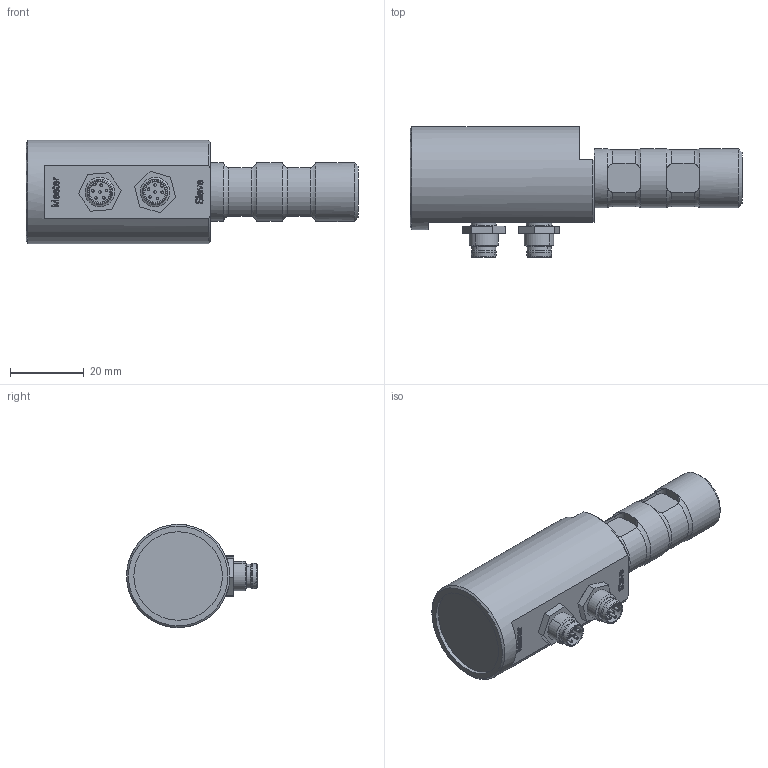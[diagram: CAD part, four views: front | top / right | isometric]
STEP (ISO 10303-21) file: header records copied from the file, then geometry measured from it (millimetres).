
FILE_DESCRIPTION(/* description */ ('Alibre Inc.'),/* implementation_level */ '2;1');
FILE_NAME(/* name */ 'export-2738DC09-7430-4302-BC5A-EB1AC9F582ED',/* time_stamp */ '2022-02-07T10:53:00+01:00',/* author */ (''),/* organization */ (''),/* preprocessor_version */ 'ST-DEVELOPER v17',/* originating_system */ 'Alibre',/* authorisation */ '');
FILE_SCHEMA (('CONFIG_CONTROL_DESIGN'));
Length unit declared in the file: millimetre
Bounding box: 90 x 35.5 x 28 mm (x, y, z)
Volume: 36603.5 mm3; surface area: 9865.7 mm2
Topology: 3 solids, 3 shells, 454 faces, 1176 edges, 778 vertices
Faces by surface type: plane 170, bspline 123, cylinder 99, torus 34, cone 28
Full cylindrical faces by diameter (mm): 0.7 x12, 7.5 x2, 16 x3, 24 x1, 28 x1
Entity records: 11890 total; most frequent: CARTESIAN_POINT 3753, ORIENTED_EDGE 1888, DIRECTION 1078, EDGE_CURVE 944, VERTEX_POINT 634, VECTOR 463, LINE 463, EDGE_LOOP 412
